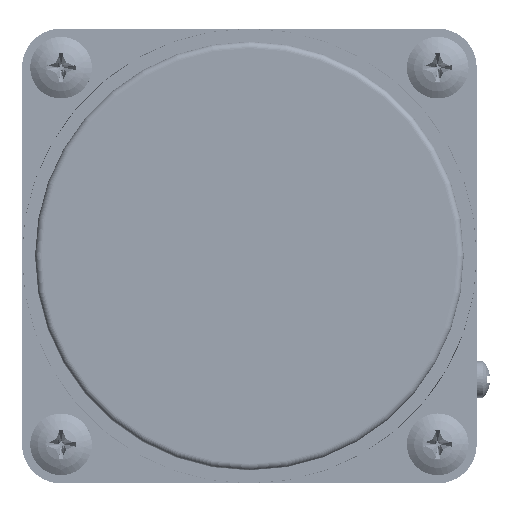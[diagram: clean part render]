
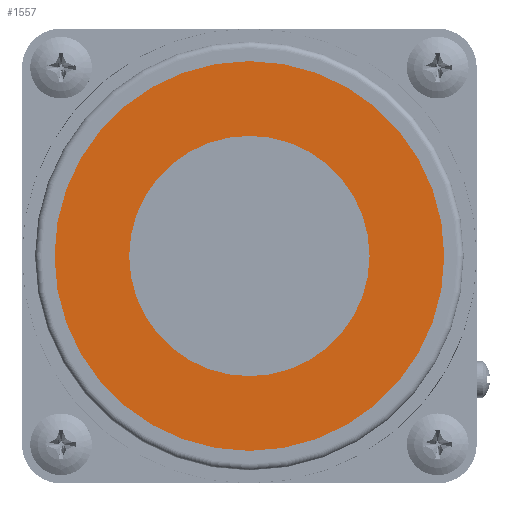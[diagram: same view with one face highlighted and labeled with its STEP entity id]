
A CAD part, left-side view. The second image highlights one B-rep face of the part: STEP entity #1557.
In plain terms, the highlighted planar face has unit normal (-1, 0, 0).
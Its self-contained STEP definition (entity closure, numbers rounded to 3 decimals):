
#1320=PLANE('',#5298);
#1557=ADVANCED_FACE('',(#1841,#1842),#1320,.T.);
#1841=FACE_BOUND('',#2150,.T.);
#1842=FACE_BOUND('',#2151,.T.);
#2150=EDGE_LOOP('',(#3102));
#2151=EDGE_LOOP('',(#3103));
#3102=ORIENTED_EDGE('',*,*,#4495,.F.);
#3103=ORIENTED_EDGE('',*,*,#4494,.F.);
#3920=VERTEX_POINT('',#8618);
#3921=VERTEX_POINT('',#8621);
#4494=EDGE_CURVE('',#3920,#3920,#4890,.T.);
#4495=EDGE_CURVE('',#3921,#3921,#4891,.T.);
#4890=CIRCLE('',#5295,30.);
#4891=CIRCLE('',#5297,18.5);
#5295=AXIS2_PLACEMENT_3D('',#8617,#6011,#6012);
#5297=AXIS2_PLACEMENT_3D('',#8620,#6015,#6016);
#5298=AXIS2_PLACEMENT_3D('',#8622,#6017,#6018);
#6011=DIRECTION('',(1.,0.,0.));
#6012=DIRECTION('',(0.,0.,-1.));
#6015=DIRECTION('',(-1.,0.,0.));
#6016=DIRECTION('',(0.,0.,-1.));
#6017=DIRECTION('',(-1.,0.,0.));
#6018=DIRECTION('',(0.,0.,-1.));
#8617=CARTESIAN_POINT('',(-91.,0.,0.));
#8618=CARTESIAN_POINT('',(-91.,0.,-30.));
#8620=CARTESIAN_POINT('',(-91.,0.,0.));
#8621=CARTESIAN_POINT('',(-91.,0.,-18.5));
#8622=CARTESIAN_POINT('',(-91.,0.,0.));
